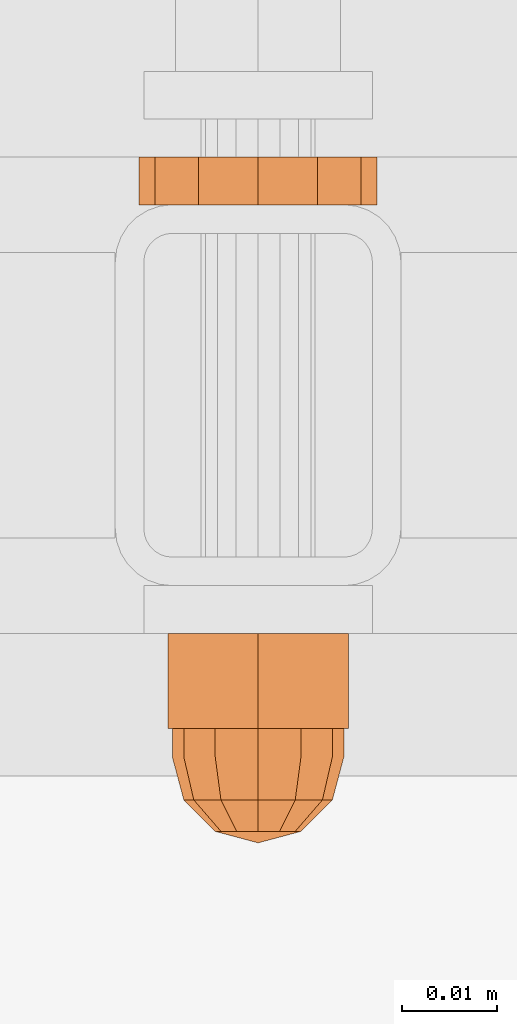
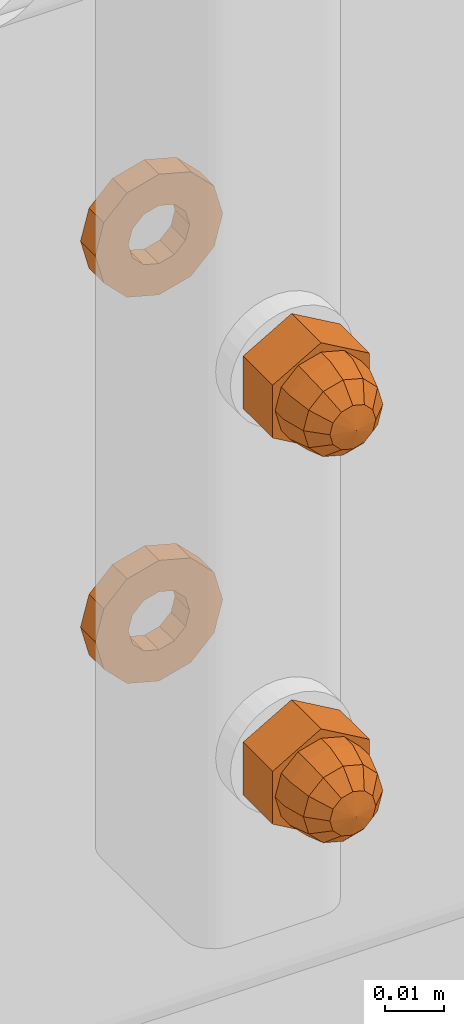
# One storey, part 122 of 162: 4 proxies.
"""IFC2X3 building model written with IfcOpenShell, lengths in millimetres."""

from ifc_helpers import new_model, entity, si_unit, converted_unit, origin_with_axes, place, context, project, spatial, faceted_brep, material, element, save


model = new_model("IFC2X3")

# Units and contexts
model_context = context("Model", 3, precision=1e-09, world=origin_with_axes())
ifc_project = project(units=[si_unit("LENGTHUNIT", "METRE", prefix="MILLI"), si_unit("AREAUNIT", "SQUARE_METRE"), si_unit("VOLUMEUNIT", "CUBIC_METRE"), converted_unit("PLANEANGLEUNIT", "DEGREE", entity("IfcPlaneAngleMeasure", 0.01745329), si_unit("PLANEANGLEUNIT", "RADIAN"), dimensions=[0, 0, 0, 0, 0, 0, 0])], contexts=[model_context])

# Site, building, storey
site_placement = place(None, origin_with_axes())
site = spatial("IfcSite", under=ifc_project, at=site_placement, Name="Hermannstra?e 1a, 60318 Frankfurt", CompositionType="ELEMENT")
building_placement = place(site_placement, origin_with_axes())
building = spatial("IfcBuilding", under=site, at=building_placement, Name="Struktur 1", CompositionType="ELEMENT")
storey_placement = place(building_placement, origin_with_axes())
storey = spatial("IfcBuildingStorey", under=building, at=storey_placement, Name="Default Storey", CompositionType="ELEMENT", Elevation=0.0)

# Proxies
ifc_material = material(Name="Kein")
proxy_1_placement = place(None, origin_with_axes())
element("IfcBuildingElementProxy", 1, at=proxy_1_placement, inside=storey, material=ifc_material, ObjectType="-", context=model_context, shape_type="Brep", body=[
    faceted_brep([(4432.484047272, 1535.609373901, 15090.749), (4437.05936482, 1535.609373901, 15086.173682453), (4443.30936482, 1535.609373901, 15084.499), (4449.55936482, 1535.609373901, 15086.173682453), (4454.134682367, 1535.609373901, 15090.749), (4455.80936482, 1535.609373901, 15096.999), (4454.134682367, 1535.609373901, 15103.249), (4449.55936482, 1535.609373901, 15107.824317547), (4443.30936482, 1535.609373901, 15109.499), (4437.05936482, 1535.609373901, 15107.824317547), (4432.484047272, 1535.609373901, 15103.249), (4430.80936482, 1535.609373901, 15096.999), (4443.30936482, 1535.609373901, 15090.999), (4440.30936482, 1535.609373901, 15091.802847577), (4438.113212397, 1535.609373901, 15093.999), (4437.30936482, 1535.609373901, 15096.999), (4438.113212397, 1535.609373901, 15099.999), (4440.30936482, 1535.609373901, 15102.195152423), (4443.30936482, 1535.609373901, 15102.999), (4446.30936482, 1535.609373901, 15102.195152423), (4448.505517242, 1535.609373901, 15099.999), (4449.30936482, 1535.609373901, 15096.999), (4448.505517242, 1535.609373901, 15093.999), (4446.30936482, 1535.609373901, 15091.802847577), (4432.484047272, 1540.609373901, 15090.749), (4437.05936482, 1540.609373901, 15086.173682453), (4430.80936482, 1540.609373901, 15096.999), (4432.484047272, 1540.609373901, 15103.249), (4437.05936482, 1540.609373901, 15107.824317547), (4443.30936482, 1540.609373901, 15109.499), (4449.55936482, 1540.609373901, 15107.824317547), (4454.134682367, 1540.609373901, 15103.249), (4455.80936482, 1540.609373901, 15096.999), (4454.134682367, 1540.609373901, 15090.749), (4449.55936482, 1540.609373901, 15086.173682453), (4443.30936482, 1540.609373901, 15084.499), (4438.113212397, 1540.609373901, 15099.999), (4437.30936482, 1540.609373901, 15096.999), (4438.113212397, 1540.609373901, 15093.999), (4440.30936482, 1540.609373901, 15091.802847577), (4443.30936482, 1540.609373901, 15090.999), (4446.30936482, 1540.609373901, 15091.802847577), (4448.505517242, 1540.609373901, 15093.999), (4449.30936482, 1540.609373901, 15096.999), (4448.505517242, 1540.609373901, 15099.999), (4446.30936482, 1540.609373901, 15102.195152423), (4443.30936482, 1540.609373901, 15102.999), (4440.30936482, 1540.609373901, 15102.195152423)], [[[0, 1, 2, 3, 4, 5, 6, 7, 8, 9, 10, 11], [12, 13, 14, 15, 16, 17, 18, 19, 20, 21, 22, 23]], [[0, 24, 25, 1]], [[24, 26, 27, 28, 29, 30, 31, 32, 33, 34, 35, 25], [36, 37, 38, 39, 40, 41, 42, 43, 44, 45, 46, 47]], [[38, 14, 13, 39]], [[24, 0, 11, 26]], [[14, 38, 37, 15]], [[39, 13, 12, 40]], [[1, 25, 35, 2]], [[26, 11, 10, 27]], [[15, 37, 36, 16]], [[40, 12, 23, 41]], [[2, 35, 34, 3]], [[27, 10, 9, 28]], [[16, 36, 47, 17]], [[22, 42, 41, 23]], [[3, 34, 33, 4]], [[42, 22, 21, 43]], [[28, 9, 8, 29]], [[17, 47, 46, 18]], [[20, 44, 43, 21]], [[4, 33, 32, 5]], [[45, 19, 18, 46]], [[44, 20, 19, 45]], [[29, 8, 7, 30]], [[5, 32, 31, 6]], [[30, 7, 6, 31]]]),
])
proxy_2_placement = place(None, origin_with_axes())
element("IfcBuildingElementProxy", 2, at=proxy_2_placement, inside=storey, material=ifc_material, ObjectType="-", context=model_context, shape_type="Brep", body=[
    faceted_brep([(4432.484047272, 1535.609373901, 15170.749), (4437.05936482, 1535.609373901, 15166.173682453), (4443.30936482, 1535.609373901, 15164.499), (4449.55936482, 1535.609373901, 15166.173682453), (4454.134682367, 1535.609373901, 15170.749), (4455.80936482, 1535.609373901, 15176.999), (4454.134682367, 1535.609373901, 15183.249), (4449.55936482, 1535.609373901, 15187.824317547), (4443.30936482, 1535.609373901, 15189.499), (4437.05936482, 1535.609373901, 15187.824317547), (4432.484047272, 1535.609373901, 15183.249), (4430.80936482, 1535.609373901, 15176.999), (4443.30936482, 1535.609373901, 15170.999), (4440.30936482, 1535.609373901, 15171.802847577), (4438.113212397, 1535.609373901, 15173.999), (4437.30936482, 1535.609373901, 15176.999), (4438.113212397, 1535.609373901, 15179.999), (4440.30936482, 1535.609373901, 15182.195152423), (4443.30936482, 1535.609373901, 15182.999), (4446.30936482, 1535.609373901, 15182.195152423), (4448.505517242, 1535.609373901, 15179.999), (4449.30936482, 1535.609373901, 15176.999), (4448.505517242, 1535.609373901, 15173.999), (4446.30936482, 1535.609373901, 15171.802847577), (4432.484047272, 1540.609373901, 15170.749), (4437.05936482, 1540.609373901, 15166.173682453), (4430.80936482, 1540.609373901, 15176.999), (4432.484047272, 1540.609373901, 15183.249), (4437.05936482, 1540.609373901, 15187.824317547), (4443.30936482, 1540.609373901, 15189.499), (4449.55936482, 1540.609373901, 15187.824317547), (4454.134682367, 1540.609373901, 15183.249), (4455.80936482, 1540.609373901, 15176.999), (4454.134682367, 1540.609373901, 15170.749), (4449.55936482, 1540.609373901, 15166.173682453), (4443.30936482, 1540.609373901, 15164.499), (4438.113212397, 1540.609373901, 15179.999), (4437.30936482, 1540.609373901, 15176.999), (4438.113212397, 1540.609373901, 15173.999), (4440.30936482, 1540.609373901, 15171.802847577), (4443.30936482, 1540.609373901, 15170.999), (4446.30936482, 1540.609373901, 15171.802847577), (4448.505517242, 1540.609373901, 15173.999), (4449.30936482, 1540.609373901, 15176.999), (4448.505517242, 1540.609373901, 15179.999), (4446.30936482, 1540.609373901, 15182.195152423), (4443.30936482, 1540.609373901, 15182.999), (4440.30936482, 1540.609373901, 15182.195152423)], [[[0, 1, 2, 3, 4, 5, 6, 7, 8, 9, 10, 11], [12, 13, 14, 15, 16, 17, 18, 19, 20, 21, 22, 23]], [[0, 24, 25, 1]], [[24, 26, 27, 28, 29, 30, 31, 32, 33, 34, 35, 25], [36, 37, 38, 39, 40, 41, 42, 43, 44, 45, 46, 47]], [[38, 14, 13, 39]], [[24, 0, 11, 26]], [[14, 38, 37, 15]], [[39, 13, 12, 40]], [[1, 25, 35, 2]], [[26, 11, 10, 27]], [[15, 37, 36, 16]], [[40, 12, 23, 41]], [[2, 35, 34, 3]], [[27, 10, 9, 28]], [[16, 36, 47, 17]], [[22, 42, 41, 23]], [[3, 34, 33, 4]], [[42, 22, 21, 43]], [[28, 9, 8, 29]], [[17, 47, 46, 18]], [[20, 44, 43, 21]], [[4, 33, 32, 5]], [[45, 19, 18, 46]], [[44, 20, 19, 45]], [[29, 8, 7, 30]], [[5, 32, 31, 6]], [[30, 7, 6, 31]]]),
])
proxy_3_placement = place(None, origin_with_axes())
element("IfcBuildingElementProxy", 3, at=proxy_3_placement, inside=storey, material=ifc_material, ObjectType="-", context=model_context, shape_type="Brep", body=[
    faceted_brep([(4437.30936482, 1490.609373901, 15176.999), (4437.30936482, 1480.609373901, 15176.999), (4438.113212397, 1480.609373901, 15173.999), (4438.113212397, 1490.609373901, 15173.999), (4440.30936482, 1480.609373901, 15171.802847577), (4440.30936482, 1490.609373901, 15171.802847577), (4438.113212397, 1490.609373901, 15179.999), (4438.113212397, 1480.609373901, 15179.999), (4433.829495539, 1490.609373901, 15182.472205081), (4443.30936482, 1490.609373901, 15187.945410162), (4452.7892341, 1490.609373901, 15182.472205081), (4452.7892341, 1490.609373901, 15171.525794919), (4443.30936482, 1490.609373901, 15166.052589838), (4433.829495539, 1490.609373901, 15171.525794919), (4440.30936482, 1490.609373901, 15182.195152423), (4443.30936482, 1490.609373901, 15170.999), (4446.30936482, 1490.609373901, 15171.802847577), (4448.505517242, 1490.609373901, 15173.999), (4449.30936482, 1490.609373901, 15176.999), (4448.505517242, 1490.609373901, 15179.999), (4446.30936482, 1490.609373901, 15182.195152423), (4443.30936482, 1490.609373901, 15182.999), (4443.30936482, 1480.609373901, 15187.945410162), (4433.829495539, 1480.609373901, 15182.472205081), (4433.829495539, 1480.609373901, 15171.525794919), (4443.30936482, 1480.609373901, 15166.052589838), (4452.7892341, 1480.609373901, 15171.525794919), (4452.7892341, 1480.609373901, 15182.472205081), (4440.30936482, 1480.609373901, 15182.195152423), (4443.30936482, 1480.609373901, 15182.999), (4446.30936482, 1480.609373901, 15182.195152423), (4448.505517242, 1480.609373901, 15179.999), (4449.30936482, 1480.609373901, 15176.999), (4448.505517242, 1480.609373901, 15173.999), (4446.30936482, 1480.609373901, 15171.802847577), (4443.30936482, 1480.609373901, 15170.999)], [[[0, 1, 2, 3]], [[3, 2, 4, 5]], [[1, 0, 6, 7]], [[8, 9, 10, 11, 12, 13], [14, 6, 0, 3, 5, 15, 16, 17, 18, 19, 20, 21]], [[22, 23, 24, 25, 26, 27], [1, 7, 28, 29, 30, 31, 32, 33, 34, 35, 4, 2]], [[7, 6, 14, 28]], [[24, 23, 8, 13]], [[5, 4, 35, 15]], [[13, 12, 25, 24]], [[28, 14, 21, 29]], [[23, 22, 9, 8]], [[15, 35, 34, 16]], [[12, 11, 26, 25]], [[29, 21, 20, 30]], [[22, 27, 10, 9]], [[16, 34, 33, 17]], [[27, 26, 11, 10]], [[30, 20, 19, 31]], [[17, 33, 32, 18]], [[31, 19, 18, 32]]]),
    faceted_brep([(4443.30936482, 1480.609373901, 15185.999), (4443.30936482, 1477.609373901, 15185.999), (4447.80936482, 1477.609373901, 15184.793228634), (4447.80936482, 1480.609373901, 15184.793228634), (4438.80936482, 1480.609373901, 15184.793228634), (4438.80936482, 1477.609373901, 15184.793228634), (4435.515136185, 1477.609373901, 15172.499), (4438.80936482, 1477.609373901, 15169.204771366), (4443.30936482, 1477.609373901, 15167.999), (4447.80936482, 1477.609373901, 15169.204771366), (4451.103593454, 1477.609373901, 15172.499), (4452.30936482, 1477.609373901, 15176.999), (4451.103593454, 1477.609373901, 15181.499), (4435.515136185, 1477.609373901, 15181.499), (4434.30936482, 1477.609373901, 15176.999), (4451.103593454, 1480.609373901, 15172.499), (4447.80936482, 1480.609373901, 15169.204771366), (4443.30936482, 1480.609373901, 15167.999), (4438.80936482, 1480.609373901, 15169.204771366), (4435.515136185, 1480.609373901, 15172.499), (4434.30936482, 1480.609373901, 15176.999), (4435.515136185, 1480.609373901, 15181.499), (4451.103593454, 1480.609373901, 15181.499), (4452.30936482, 1480.609373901, 15176.999)], [[[0, 1, 2, 3]], [[1, 0, 4, 5]], [[6, 7, 8, 9, 10, 11, 12, 2, 1, 5, 13, 14]], [[15, 16, 17, 18, 19, 20, 21, 4, 0, 3, 22, 23]], [[3, 2, 12, 22]], [[5, 4, 21, 13]], [[22, 12, 11, 23]], [[13, 21, 20, 14]], [[7, 18, 17, 8]], [[19, 6, 14, 20]], [[18, 7, 6, 19]], [[23, 11, 10, 15]], [[8, 17, 16, 9]], [[15, 10, 9, 16]]]),
    faceted_brep([(4435.515136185, 1477.609373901, 15181.499), (4436.55936482, 1473.109373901, 15180.896114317), (4439.412250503, 1473.109373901, 15183.749), (4438.80936482, 1477.609373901, 15184.793228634), (4451.103593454, 1477.609373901, 15172.499), (4447.80936482, 1477.609373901, 15169.204771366), (4443.30936482, 1477.609373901, 15167.999), (4438.80936482, 1477.609373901, 15169.204771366), (4435.515136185, 1477.609373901, 15172.499), (4434.30936482, 1477.609373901, 15176.999), (4443.30936482, 1477.609373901, 15185.999), (4447.80936482, 1477.609373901, 15184.793228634), (4451.103593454, 1477.609373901, 15181.499), (4452.30936482, 1477.609373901, 15176.999), (4443.30936482, 1473.109373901, 15184.793228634), (4435.515136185, 1473.109373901, 15176.999), (4438.80936482, 1469.815145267, 15176.999), (4439.412250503, 1469.815145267, 15179.249), (4447.206479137, 1473.109373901, 15183.749), (4441.05936482, 1469.815145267, 15180.896114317), (4436.55936482, 1473.109373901, 15173.101885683), (4439.412250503, 1469.815145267, 15174.749), (4443.30936482, 1469.815145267, 15181.499), (4443.30936482, 1468.609373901, 15176.999), (4439.412250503, 1473.109373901, 15170.249), (4441.05936482, 1469.815145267, 15173.101885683), (4443.30936482, 1473.109373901, 15169.204771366), (4450.05936482, 1473.109373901, 15180.896114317), (4445.55936482, 1469.815145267, 15180.896114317), (4443.30936482, 1469.815145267, 15172.499), (4447.206479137, 1473.109373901, 15170.249), (4445.55936482, 1469.815145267, 15173.101885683), (4451.103593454, 1473.109373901, 15176.999), (4447.206479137, 1469.815145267, 15179.249), (4450.05936482, 1473.109373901, 15173.101885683), (4447.206479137, 1469.815145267, 15174.749), (4447.80936482, 1469.815145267, 15176.999)], [[[0, 1, 2, 3]], [[4, 5, 6, 7, 8, 9, 0, 3, 10, 11, 12, 13]], [[3, 2, 14, 10]], [[15, 16, 17, 1]], [[1, 0, 9, 15]], [[10, 14, 18, 11]], [[1, 17, 19, 2]], [[16, 15, 20, 21]], [[2, 19, 22, 14]], [[23, 17, 16]], [[24, 25, 21, 20]], [[23, 16, 21]], [[24, 7, 6, 26]], [[20, 8, 7, 24]], [[15, 9, 8, 20]], [[11, 18, 27, 12]], [[14, 22, 28, 18]], [[23, 19, 17]], [[26, 29, 25, 24]], [[23, 21, 25]], [[23, 22, 19]], [[26, 6, 5, 30]], [[29, 26, 30, 31]], [[23, 25, 29]], [[12, 27, 32, 13]], [[18, 28, 33, 27]], [[23, 28, 22]], [[23, 29, 31]], [[23, 33, 28]], [[30, 5, 4, 34]], [[31, 30, 34, 35]], [[23, 31, 35]], [[13, 32, 34, 4]], [[27, 33, 36, 32]], [[23, 36, 33]], [[23, 35, 36]], [[35, 34, 32, 36]]]),
])
proxy_4_placement = place(None, origin_with_axes())
element("IfcBuildingElementProxy", 4, at=proxy_4_placement, inside=storey, material=ifc_material, ObjectType="-", context=model_context, shape_type="Brep", body=[
    faceted_brep([(4437.30936482, 1490.609373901, 15096.999), (4437.30936482, 1480.609373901, 15096.999), (4438.113212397, 1480.609373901, 15093.999), (4438.113212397, 1490.609373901, 15093.999), (4440.30936482, 1480.609373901, 15091.802847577), (4440.30936482, 1490.609373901, 15091.802847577), (4438.113212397, 1490.609373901, 15099.999), (4438.113212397, 1480.609373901, 15099.999), (4433.829495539, 1490.609373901, 15102.472205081), (4443.30936482, 1490.609373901, 15107.945410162), (4452.7892341, 1490.609373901, 15102.472205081), (4452.7892341, 1490.609373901, 15091.525794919), (4443.30936482, 1490.609373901, 15086.052589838), (4433.829495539, 1490.609373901, 15091.525794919), (4440.30936482, 1490.609373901, 15102.195152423), (4443.30936482, 1490.609373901, 15090.999), (4446.30936482, 1490.609373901, 15091.802847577), (4448.505517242, 1490.609373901, 15093.999), (4449.30936482, 1490.609373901, 15096.999), (4448.505517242, 1490.609373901, 15099.999), (4446.30936482, 1490.609373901, 15102.195152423), (4443.30936482, 1490.609373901, 15102.999), (4443.30936482, 1480.609373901, 15107.945410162), (4433.829495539, 1480.609373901, 15102.472205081), (4433.829495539, 1480.609373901, 15091.525794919), (4443.30936482, 1480.609373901, 15086.052589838), (4452.7892341, 1480.609373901, 15091.525794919), (4452.7892341, 1480.609373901, 15102.472205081), (4440.30936482, 1480.609373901, 15102.195152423), (4443.30936482, 1480.609373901, 15102.999), (4446.30936482, 1480.609373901, 15102.195152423), (4448.505517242, 1480.609373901, 15099.999), (4449.30936482, 1480.609373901, 15096.999), (4448.505517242, 1480.609373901, 15093.999), (4446.30936482, 1480.609373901, 15091.802847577), (4443.30936482, 1480.609373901, 15090.999)], [[[0, 1, 2, 3]], [[3, 2, 4, 5]], [[1, 0, 6, 7]], [[8, 9, 10, 11, 12, 13], [14, 6, 0, 3, 5, 15, 16, 17, 18, 19, 20, 21]], [[22, 23, 24, 25, 26, 27], [1, 7, 28, 29, 30, 31, 32, 33, 34, 35, 4, 2]], [[7, 6, 14, 28]], [[24, 23, 8, 13]], [[5, 4, 35, 15]], [[13, 12, 25, 24]], [[28, 14, 21, 29]], [[23, 22, 9, 8]], [[15, 35, 34, 16]], [[12, 11, 26, 25]], [[29, 21, 20, 30]], [[22, 27, 10, 9]], [[16, 34, 33, 17]], [[27, 26, 11, 10]], [[30, 20, 19, 31]], [[17, 33, 32, 18]], [[31, 19, 18, 32]]]),
    faceted_brep([(4443.30936482, 1480.609373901, 15105.999), (4443.30936482, 1477.609373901, 15105.999), (4447.80936482, 1477.609373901, 15104.793228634), (4447.80936482, 1480.609373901, 15104.793228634), (4438.80936482, 1480.609373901, 15104.793228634), (4438.80936482, 1477.609373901, 15104.793228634), (4435.515136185, 1477.609373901, 15092.499), (4438.80936482, 1477.609373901, 15089.204771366), (4443.30936482, 1477.609373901, 15087.999), (4447.80936482, 1477.609373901, 15089.204771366), (4451.103593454, 1477.609373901, 15092.499), (4452.30936482, 1477.609373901, 15096.999), (4451.103593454, 1477.609373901, 15101.499), (4435.515136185, 1477.609373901, 15101.499), (4434.30936482, 1477.609373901, 15096.999), (4451.103593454, 1480.609373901, 15092.499), (4447.80936482, 1480.609373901, 15089.204771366), (4443.30936482, 1480.609373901, 15087.999), (4438.80936482, 1480.609373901, 15089.204771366), (4435.515136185, 1480.609373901, 15092.499), (4434.30936482, 1480.609373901, 15096.999), (4435.515136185, 1480.609373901, 15101.499), (4451.103593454, 1480.609373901, 15101.499), (4452.30936482, 1480.609373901, 15096.999)], [[[0, 1, 2, 3]], [[1, 0, 4, 5]], [[6, 7, 8, 9, 10, 11, 12, 2, 1, 5, 13, 14]], [[15, 16, 17, 18, 19, 20, 21, 4, 0, 3, 22, 23]], [[3, 2, 12, 22]], [[5, 4, 21, 13]], [[22, 12, 11, 23]], [[13, 21, 20, 14]], [[7, 18, 17, 8]], [[19, 6, 14, 20]], [[18, 7, 6, 19]], [[23, 11, 10, 15]], [[8, 17, 16, 9]], [[15, 10, 9, 16]]]),
    faceted_brep([(4435.515136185, 1477.609373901, 15101.499), (4436.55936482, 1473.109373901, 15100.896114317), (4439.412250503, 1473.109373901, 15103.749), (4438.80936482, 1477.609373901, 15104.793228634), (4451.103593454, 1477.609373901, 15092.499), (4447.80936482, 1477.609373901, 15089.204771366), (4443.30936482, 1477.609373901, 15087.999), (4438.80936482, 1477.609373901, 15089.204771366), (4435.515136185, 1477.609373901, 15092.499), (4434.30936482, 1477.609373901, 15096.999), (4443.30936482, 1477.609373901, 15105.999), (4447.80936482, 1477.609373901, 15104.793228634), (4451.103593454, 1477.609373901, 15101.499), (4452.30936482, 1477.609373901, 15096.999), (4443.30936482, 1473.109373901, 15104.793228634), (4435.515136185, 1473.109373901, 15096.999), (4438.80936482, 1469.815145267, 15096.999), (4439.412250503, 1469.815145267, 15099.249), (4447.206479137, 1473.109373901, 15103.749), (4441.05936482, 1469.815145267, 15100.896114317), (4436.55936482, 1473.109373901, 15093.101885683), (4439.412250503, 1469.815145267, 15094.749), (4443.30936482, 1469.815145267, 15101.499), (4443.30936482, 1468.609373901, 15096.999), (4439.412250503, 1473.109373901, 15090.249), (4441.05936482, 1469.815145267, 15093.101885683), (4443.30936482, 1473.109373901, 15089.204771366), (4450.05936482, 1473.109373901, 15100.896114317), (4445.55936482, 1469.815145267, 15100.896114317), (4443.30936482, 1469.815145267, 15092.499), (4447.206479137, 1473.109373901, 15090.249), (4445.55936482, 1469.815145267, 15093.101885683), (4451.103593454, 1473.109373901, 15096.999), (4447.206479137, 1469.815145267, 15099.249), (4450.05936482, 1473.109373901, 15093.101885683), (4447.206479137, 1469.815145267, 15094.749), (4447.80936482, 1469.815145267, 15096.999)], [[[0, 1, 2, 3]], [[4, 5, 6, 7, 8, 9, 0, 3, 10, 11, 12, 13]], [[3, 2, 14, 10]], [[15, 16, 17, 1]], [[1, 0, 9, 15]], [[10, 14, 18, 11]], [[1, 17, 19, 2]], [[16, 15, 20, 21]], [[2, 19, 22, 14]], [[23, 17, 16]], [[24, 25, 21, 20]], [[23, 16, 21]], [[24, 7, 6, 26]], [[20, 8, 7, 24]], [[15, 9, 8, 20]], [[11, 18, 27, 12]], [[14, 22, 28, 18]], [[23, 19, 17]], [[26, 29, 25, 24]], [[23, 21, 25]], [[23, 22, 19]], [[26, 6, 5, 30]], [[29, 26, 30, 31]], [[23, 25, 29]], [[12, 27, 32, 13]], [[18, 28, 33, 27]], [[23, 28, 22]], [[23, 29, 31]], [[23, 33, 28]], [[30, 5, 4, 34]], [[31, 30, 34, 35]], [[23, 31, 35]], [[13, 32, 34, 4]], [[27, 33, 36, 32]], [[23, 36, 33]], [[23, 35, 36]], [[35, 34, 32, 36]]]),
])

save(model, "model.ifc")
